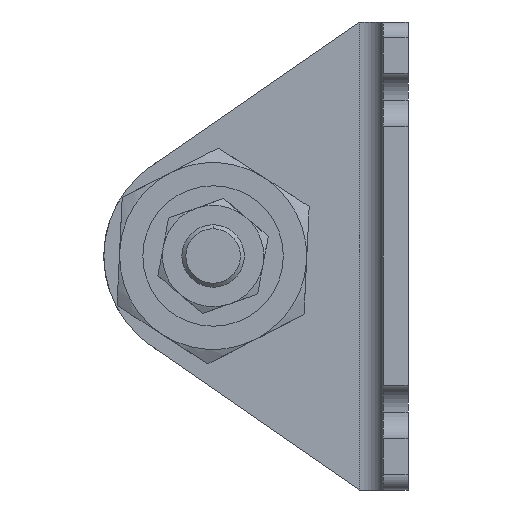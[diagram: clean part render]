
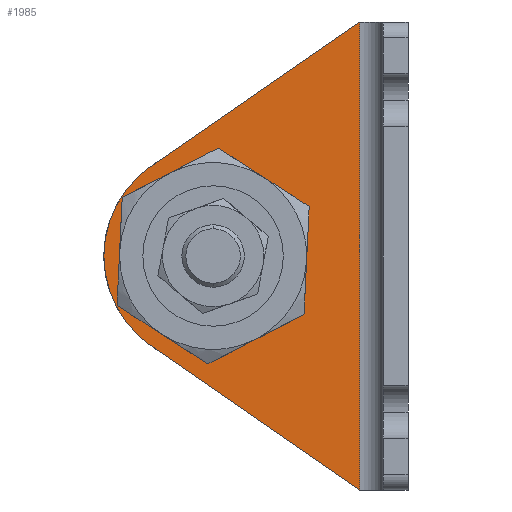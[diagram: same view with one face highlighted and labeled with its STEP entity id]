
A CAD part, left-side view. The second image highlights one B-rep face of the part: STEP entity #1985.
In plain terms, the highlighted planar face has unit normal (-1, 0, 0) as drawn and (1, 0, 0) by its records, which use the part's own axes.
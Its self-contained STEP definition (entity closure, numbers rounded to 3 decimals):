
#70 = DIRECTION ( 'NONE',  ( 1., 0., 0. ) ) ;
#92 = VERTEX_POINT ( 'NONE', #1097 ) ;
#133 = DIRECTION ( 'NONE',  ( 0., 1., 0. ) ) ;
#285 = CARTESIAN_POINT ( 'NONE',  ( 3.2, 32.956, -41.519 ) ) ;
#302 = CARTESIAN_POINT ( 'NONE',  ( 3.2, 4.169, -61.403 ) ) ;
#328 = CARTESIAN_POINT ( 'NONE',  ( 3.2, 25., -30. ) ) ;
#329 = EDGE_CURVE ( 'NONE', #2578, #92, #2870, .T. ) ;
#380 = VECTOR ( 'NONE', #3525, 1000. ) ;
#436 = DIRECTION ( 'NONE',  ( 1., 0., 0. ) ) ;
#455 = DIRECTION ( 'NONE',  ( 1., 0., 0. ) ) ;
#484 = EDGE_CURVE ( 'NONE', #92, #3361, #2809, .T. ) ;
#587 = LINE ( 'NONE', #1306, #2730 ) ;
#614 = EDGE_CURVE ( 'NONE', #2846, #3871, #673, .T. ) ;
#670 = CARTESIAN_POINT ( 'NONE',  ( 3.2, 32.956, -18.481 ) ) ;
#673 = LINE ( 'NONE', #3006, #380 ) ;
#679 = EDGE_LOOP ( 'NONE', ( #2082, #4131, #3333, #792, #1755 ) ) ;
#792 = ORIENTED_EDGE ( 'NONE', *, *, #1754, .F. ) ;
#834 = FACE_OUTER_BOUND ( 'NONE', #679, .T. ) ;
#1043 = CARTESIAN_POINT ( 'NONE',  ( 3.2, 25., -30. ) ) ;
#1091 = EDGE_CURVE ( 'NONE', #1966, #3666, #3446, .T. ) ;
#1097 = CARTESIAN_POINT ( 'NONE',  ( 3.2, 39., -30. ) ) ;
#1175 = CARTESIAN_POINT ( 'NONE',  ( 3.2, 3.2, -60. ) ) ;
#1279 = VECTOR ( 'NONE', #1289, 1000. ) ;
#1289 = DIRECTION ( 'NONE',  ( 0., 0.823, 0.568 ) ) ;
#1306 = CARTESIAN_POINT ( 'NONE',  ( 3.2, 32.226, -17.976 ) ) ;
#1353 = CARTESIAN_POINT ( 'NONE',  ( 3.2, 34.5, -30. ) ) ;
#1455 = DIRECTION ( 'NONE',  ( 0., 1., 0. ) ) ;
#1650 = DIRECTION ( 'NONE',  ( 0., 0.823, -0.568 ) ) ;
#1666 = AXIS2_PLACEMENT_3D ( 'NONE', #1043, #2795, #3659 ) ;
#1688 = AXIS2_PLACEMENT_3D ( 'NONE', #1873, #70, #2423 ) ;
#1754 = EDGE_CURVE ( 'NONE', #2846, #3361, #587, .T. ) ;
#1755 = ORIENTED_EDGE ( 'NONE', *, *, #614, .T. ) ;
#1770 = DIRECTION ( 'NONE',  ( 0., 1., 0. ) ) ;
#1873 = CARTESIAN_POINT ( 'NONE',  ( 3.2, 25., -30. ) ) ;
#1917 = DIRECTION ( 'NONE',  ( 1., 0., 0. ) ) ;
#1925 = EDGE_CURVE ( 'NONE', #3666, #1966, #3742, .T. ) ;
#1966 = VERTEX_POINT ( 'NONE', #4133 ) ;
#1985 = ADVANCED_FACE ( 'NONE', ( #2645, #834 ), #2985, .T. ) ;
#2082 = ORIENTED_EDGE ( 'NONE', *, *, #3771, .T. ) ;
#2191 = CARTESIAN_POINT ( 'NONE',  ( 3.2, 6.2, 0. ) ) ;
#2252 = CARTESIAN_POINT ( 'NONE',  ( 3.2, 25., -30. ) ) ;
#2423 = DIRECTION ( 'NONE',  ( 0., 1., 0. ) ) ;
#2578 = VERTEX_POINT ( 'NONE', #285 ) ;
#2619 = AXIS2_PLACEMENT_3D ( 'NONE', #328, #1917, #133 ) ;
#2645 = FACE_BOUND ( 'NONE', #3034, .T. ) ;
#2730 = VECTOR ( 'NONE', #1650, 1000. ) ;
#2795 = DIRECTION ( 'NONE',  ( 1., 0., 0. ) ) ;
#2809 = CIRCLE ( 'NONE', #3924, 14. ) ;
#2846 = VERTEX_POINT ( 'NONE', #2191 ) ;
#2870 = CIRCLE ( 'NONE', #1688, 14. ) ;
#2985 = PLANE ( 'NONE',  #3870 ) ;
#3006 = CARTESIAN_POINT ( 'NONE',  ( 3.2, 6.2, -60. ) ) ;
#3034 = EDGE_LOOP ( 'NONE', ( #3394, #3757 ) ) ;
#3103 = LINE ( 'NONE', #302, #1279 ) ;
#3333 = ORIENTED_EDGE ( 'NONE', *, *, #484, .T. ) ;
#3361 = VERTEX_POINT ( 'NONE', #670 ) ;
#3394 = ORIENTED_EDGE ( 'NONE', *, *, #1925, .F. ) ;
#3446 = CIRCLE ( 'NONE', #1666, 9.5 ) ;
#3525 = DIRECTION ( 'NONE',  ( 0., 0., -1. ) ) ;
#3572 = CARTESIAN_POINT ( 'NONE',  ( 3.2, 6.2, -60. ) ) ;
#3659 = DIRECTION ( 'NONE',  ( 0., 1., 0. ) ) ;
#3666 = VERTEX_POINT ( 'NONE', #1353 ) ;
#3742 = CIRCLE ( 'NONE', #2619, 9.5 ) ;
#3757 = ORIENTED_EDGE ( 'NONE', *, *, #1091, .F. ) ;
#3771 = EDGE_CURVE ( 'NONE', #3871, #2578, #3103, .T. ) ;
#3870 = AXIS2_PLACEMENT_3D ( 'NONE', #1175, #436, #1770 ) ;
#3871 = VERTEX_POINT ( 'NONE', #3572 ) ;
#3924 = AXIS2_PLACEMENT_3D ( 'NONE', #2252, #455, #1455 ) ;
#4131 = ORIENTED_EDGE ( 'NONE', *, *, #329, .T. ) ;
#4133 = CARTESIAN_POINT ( 'NONE',  ( 3.2, 15.5, -30. ) ) ;
